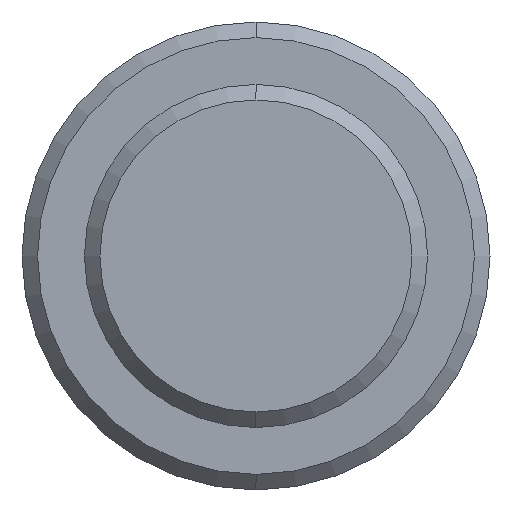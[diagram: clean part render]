
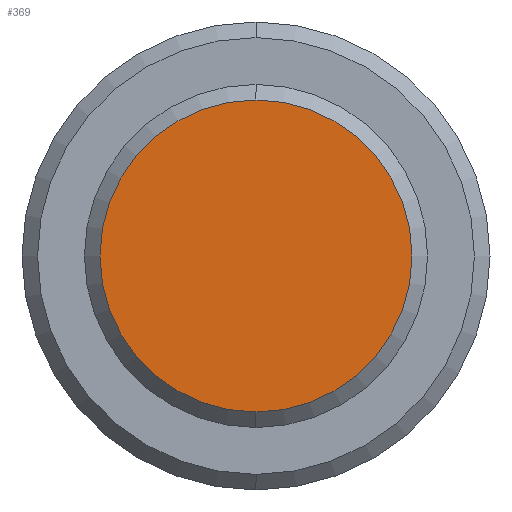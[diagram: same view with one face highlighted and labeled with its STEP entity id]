
A CAD part, left-side view. The second image highlights one B-rep face of the part: STEP entity #369.
In plain terms, the highlighted planar face has unit normal (-1, 0, 0).
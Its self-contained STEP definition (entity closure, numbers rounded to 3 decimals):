
#78 = VERTEX_POINT ( 'NONE', #94 ) ;
#94 = CARTESIAN_POINT ( 'NONE',  ( 0., 0., -10. ) ) ;
#110 = CIRCLE ( 'NONE', #147, 10. ) ;
#119 = ORIENTED_EDGE ( 'NONE', *, *, #493, .T. ) ;
#122 = CARTESIAN_POINT ( 'NONE',  ( 0., 0., 10. ) ) ;
#145 = DIRECTION ( 'NONE',  ( -1., 0., 0. ) ) ;
#147 = AXIS2_PLACEMENT_3D ( 'NONE', #478, #433, #186 ) ;
#177 = DIRECTION ( 'NONE',  ( -1., 0., 0. ) ) ;
#186 = DIRECTION ( 'NONE',  ( 0., 0., 1. ) ) ;
#195 = DIRECTION ( 'NONE',  ( 0., 0., 1. ) ) ;
#262 = CARTESIAN_POINT ( 'NONE',  ( 0., 0., 0. ) ) ;
#275 = CARTESIAN_POINT ( 'NONE',  ( 0., 0., 0. ) ) ;
#277 = EDGE_CURVE ( 'NONE', #78, #454, #110, .T. ) ;
#336 = AXIS2_PLACEMENT_3D ( 'NONE', #262, #177, #469 ) ;
#369 = ADVANCED_FACE ( 'NONE', ( #413 ), #410, .T. ) ;
#386 = CIRCLE ( 'NONE', #336, 10. ) ;
#410 = PLANE ( 'NONE',  #471 ) ;
#413 = FACE_OUTER_BOUND ( 'NONE', #495, .T. ) ;
#433 = DIRECTION ( 'NONE',  ( -1., 0., 0. ) ) ;
#454 = VERTEX_POINT ( 'NONE', #122 ) ;
#469 = DIRECTION ( 'NONE',  ( 0., 0., 1. ) ) ;
#471 = AXIS2_PLACEMENT_3D ( 'NONE', #275, #145, #195 ) ;
#478 = CARTESIAN_POINT ( 'NONE',  ( 0., 0., 0. ) ) ;
#479 = ORIENTED_EDGE ( 'NONE', *, *, #277, .T. ) ;
#493 = EDGE_CURVE ( 'NONE', #454, #78, #386, .T. ) ;
#495 = EDGE_LOOP ( 'NONE', ( #479, #119 ) ) ;
